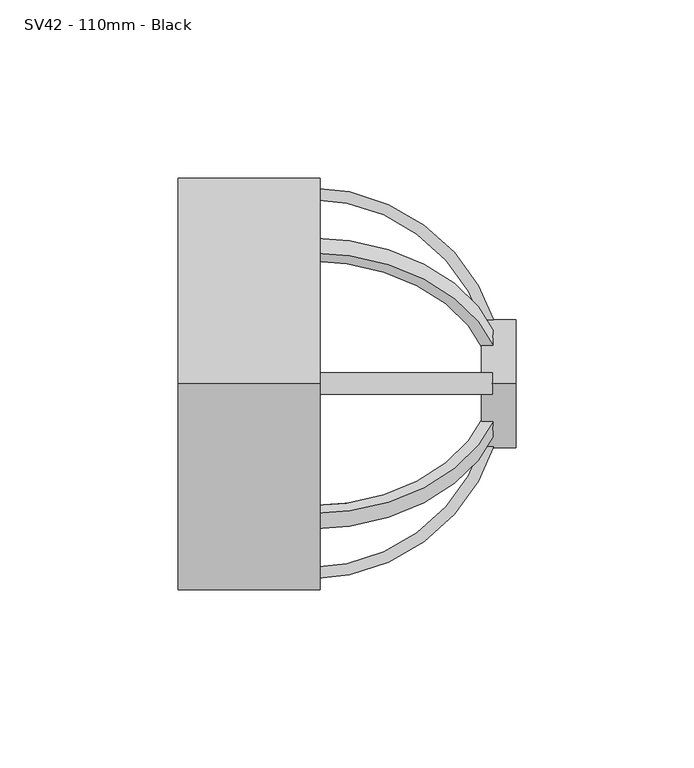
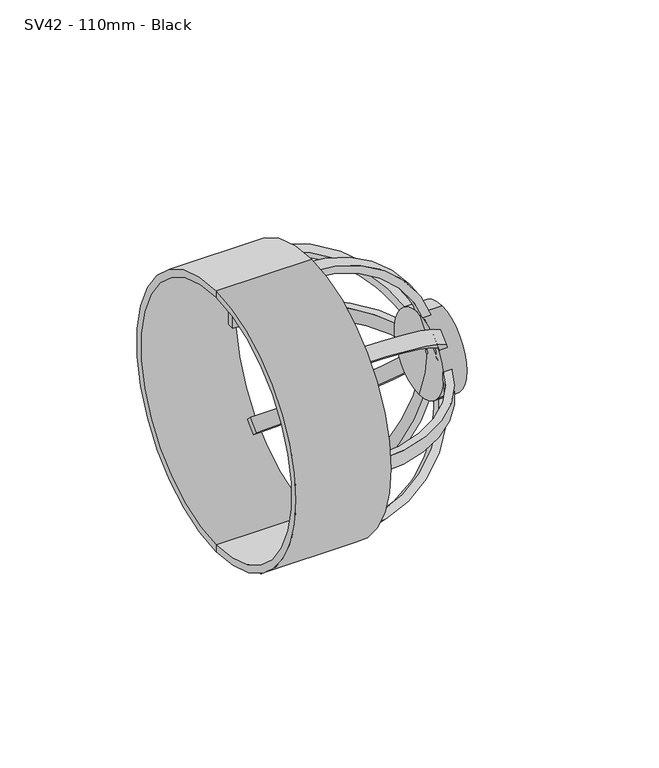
"""IFC4 building model written with IfcOpenShell, lengths in millimetres: pipe fitting geometry, MarleyPlumbingAndDrainage_PipeFitting_VentTerminal_SV321 : SV42 - 110mm - Black."""

from ifc_helpers import new_model, si_unit, point, frame, frame_2d, origin, place, context, project, spatial, polyline, circle_curve, ellipse_curve, trimmed, segment, composite_curve, outline, extrude, source, transform, mapped, element, save
from ifc_brep_helpers import plane_surface, cylinder_surface, revolved_surface, advanced_brep


def sv42_110mm_black_ff0adb0d(model_context):
    return source(origin(), model_context, "Body", "SolidModel", [
        advanced_brep(
        [(-235.6858175, 0.0, -18.0), (-235.6858175, 0.0, 18.0), (-235.6858175, 0.0, 0.0), (-245.3138091, 0.0, -18.0), (-245.3138091, 0.0, 18.0), (-242.0858175, 0.0, 0.0)],
        [
            (0, 1, circle_curve(frame((-235.6858175, 0.0, 0.0), z_axis=(1.0, 0.0, 0.0), x_axis=(0.0, 0.0, 1.0)), 18.0)),
            (1, 2),
            (2, 0),
            (1, 0, circle_curve(frame((-235.6858175, 0.0, 0.0), z_axis=(1.0, 0.0, 0.0), x_axis=(0.0, 0.0, 1.0)), 18.0)),
            (3, 4, circle_curve(frame((-245.3138091, 0.0, 0.0), z_axis=(1.0, 0.0, 0.0), x_axis=(0.0, 0.0, 1.0)), 18.0)),
            (4, 1),
            (0, 3),
            (4, 3, circle_curve(frame((-245.3138091, 0.0, 0.0), z_axis=(1.0, 0.0, 0.0), x_axis=(0.0, 0.0, 1.0)), 18.0)),
            (5, 4, circle_curve(frame((-293.8858175, 0.0, 0.0), z_axis=(0.0, -1.0, 0.0), x_axis=(0.0, 0.0, -1.0)), 51.8)),
            (3, 5, circle_curve(frame((-293.8858175, 0.0, 0.0), z_axis=(0.0, -1.0, 0.0), x_axis=(0.0, 0.0, 1.0)), 51.8)),
        ],
        [
            plane_surface(frame((-235.6858175, 0.0, 0.0), z_axis=(1.0, 0.0, 0.0), x_axis=(0.0, 0.0, 1.0))),
            cylinder_surface(frame((1883.6291855, 0.0, 0.0), z_axis=(-1.0, 0.0, 0.0), x_axis=(0.0, 0.0, 1.0)), 18.0),
            revolved_surface(trimmed(ellipse_curve(frame((-293.8858175, 0.0, 0.0), z_axis=(0.0, 1.0, 0.0), x_axis=(0.0, 0.0, -1.0)), 51.8, 51.8), [point((-245.3138091, 0.0, 18.0))], [point((-242.0858175, 0.0, 0.0))], True, "CARTESIAN"), (1883.6291855, 0.0, 0.0), (-1.0, 0.0, 0.0)),
        ],
        [
            (0, [[1, 2, 3]]),
            (0, [[4, -3, -2]]),
            (1, [[5, 6, -1, 7]]),
            (1, [[8, -7, -4, -6]]),
            (2, [[9, -5, 10]]),
            (2, [[-10, -8, -9]]),
        ],
    ),
        extrude(outline(composite_curve([segment(polyline([(-293.8858175, -55.0), (-293.8858175, -51.8)]), True, "CONTINUOUS"), segment(trimmed(circle_curve(frame_2d((-293.8858175, 0.0)), 51.8), [point((-293.8858175, -51.8))], [point((-293.8858175, 51.8))], True, "CARTESIAN"), True, "CONTINUOUS"), segment(polyline([(-293.8858175, 51.8), (-293.8858175, 55.0)]), True, "CONTINUOUS"), segment(trimmed(circle_curve(frame_2d((-293.8858175, 0.0)), 55.0), [point((-293.8858175, 55.0))], [point((-293.8858175, -55.0))], False, "CARTESIAN"), True, "CONTINUOUS")], self_intersect=False)), frame((0.0, 0.0, -3.0), z_axis=(0.0, 0.0, 1.0), x_axis=(1.0, 0.0, 0.0)), (0.0, 0.0, 1.0), 6.0),
        extrude(outline(composite_curve([segment(polyline([(-3.2, 0.0), (0.0, 0.0)]), True, "CONTINUOUS"), segment(trimmed(circle_curve(frame_2d((51.8, 0.0)), 51.8), [point((0.0, 0.0))], [point((103.6, 0.0))], True, "CARTESIAN"), True, "CONTINUOUS"), segment(polyline([(103.6, 0.0), (106.8, 0.0)]), True, "CONTINUOUS"), segment(trimmed(circle_curve(frame_2d((51.8, 0.0)), 55.0), [point((106.8, 0.0))], [point((-3.2, 0.0))], False, "CARTESIAN"), True, "CONTINUOUS")], self_intersect=False)), frame((-293.8858175, -34.4120153, -38.8336607), z_axis=(0.0, -0.7088326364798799, 0.7053767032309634), x_axis=(0.0, 0.7053767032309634, 0.7088326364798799)), (0.0, 0.0, 1.0), 6.0),
        extrude(outline(composite_curve([segment(polyline([(-3.2, 0.0), (0.0, 0.0)]), True, "CONTINUOUS"), segment(trimmed(circle_curve(frame_2d((51.8000001, 0.0)), 51.8), [point((0.0, 0.0))], [point((103.6, 0.0))], True, "CARTESIAN"), True, "CONTINUOUS"), segment(polyline([(103.6, 0.0), (106.8, 0.0)]), True, "CONTINUOUS"), segment(trimmed(circle_curve(frame_2d((51.8000001, 0.0)), 55.0), [point((106.8, 0.0))], [point((-3.2, 0.0))], False, "CARTESIAN"), True, "CONTINUOUS")], self_intersect=False)), frame((-293.8858175, -38.6686107, 34.5973778), z_axis=(0.0, 0.7087592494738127, 0.7054504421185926), x_axis=(0.0, 0.7054504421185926, -0.7087592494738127)), (0.0, 0.0, 1.0), 6.0),
        extrude(outline(composite_curve([segment(polyline([(55.0, -293.8858175), (51.8, -293.8858175)]), True, "CONTINUOUS"), segment(trimmed(circle_curve(frame_2d((0.0, -293.8858175)), 51.8), [point((51.8, -293.8858175))], [point((-51.8, -293.8858175))], True, "CARTESIAN"), True, "CONTINUOUS"), segment(polyline([(-51.8, -293.8858175), (-55.0, -293.8858175)]), True, "CONTINUOUS"), segment(trimmed(circle_curve(frame_2d((0.0, -293.8858175)), 55.0), [point((-55.0, -293.8858175))], [point((55.0, -293.8858175))], False, "CARTESIAN"), True, "CONTINUOUS")], self_intersect=False)), frame((0.0, -3.0, 0.0), z_axis=(0.0, 1.0, 0.0), x_axis=(0.0, 0.0, 1.0)), (0.0, 0.0, 1.0), 6.0),
        advanced_brep(
        [(-330.6858175, 0.0, -58.0), (-330.6858175, 0.0, 58.0), (-290.6858175, 0.0, 58.0), (-290.6858175, 0.0, -58.0), (-330.6858175, 0.0, -55.0), (-330.6858175, 0.0, 55.0), (-290.6858175, 0.0, 55.0), (-290.6858175, 0.0, -55.0)],
        [
            (0, 1, circle_curve(frame((-330.6858175, 0.0, 0.0), z_axis=(1.0, 0.0, 0.0), x_axis=(0.0, 0.0, 1.0)), 58.0)),
            (1, 2),
            (2, 3, circle_curve(frame((-290.6858175, 0.0, 0.0), z_axis=(-1.0, 0.0, 0.0), x_axis=(0.0, 0.0, 1.0)), 58.0)),
            (3, 0),
            (1, 0, circle_curve(frame((-330.6858175, 0.0, 0.0), z_axis=(1.0, 0.0, 0.0), x_axis=(0.0, 0.0, 1.0)), 58.0)),
            (3, 2, circle_curve(frame((-290.6858175, 0.0, 0.0), z_axis=(-1.0, 0.0, 0.0), x_axis=(0.0, 0.0, 1.0)), 58.0)),
            (4, 5, circle_curve(frame((-330.6858175, 0.0, 0.0), z_axis=(1.0, 0.0, 0.0), x_axis=(0.0, 0.0, 1.0)), 55.0)),
            (5, 1),
            (0, 4),
            (5, 4, circle_curve(frame((-330.6858175, 0.0, 0.0), z_axis=(1.0, 0.0, 0.0), x_axis=(0.0, 0.0, 1.0)), 55.0)),
            (2, 6),
            (6, 7, circle_curve(frame((-290.6858175, 0.0, 0.0), z_axis=(-1.0, 0.0, 0.0), x_axis=(0.0, 0.0, 1.0)), 55.0)),
            (7, 3),
            (7, 6, circle_curve(frame((-290.6858175, 0.0, 0.0), z_axis=(-1.0, 0.0, 0.0), x_axis=(0.0, 0.0, 1.0)), 55.0)),
            (6, 5),
            (4, 7),
        ],
        [
            cylinder_surface(frame((1878.0400967, 0.0, 0.0), z_axis=(-1.0, 0.0, 0.0), x_axis=(0.0, 0.0, 1.0)), 58.0),
            plane_surface(frame((-330.6858175, 0.0, 0.0), z_axis=(-1.0, 0.0, 0.0), x_axis=(0.0, 0.0, 1.0))),
            plane_surface(frame((-290.6858175, 0.0, 0.0), z_axis=(1.0, 0.0, 0.0), x_axis=(0.0, 0.0, 1.0))),
            revolved_surface(polyline([(-330.6858175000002, 0.0, 55.0), (-290.6858175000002, 0.0, 55.0)]), (1878.0400967, 0.0, 0.0), (-1.0, 0.0, 0.0)),
        ],
        [
            (0, [[1, 2, 3, 4]]),
            (0, [[5, -4, 6, -2]]),
            (1, [[7, 8, -1, 9]]),
            (1, [[10, -9, -5, -8]]),
            (2, [[-3, 11, 12, 13]]),
            (2, [[-6, -13, 14, -11]]),
            (3, [[-12, 15, -7, 16]]),
            (3, [[-14, -16, -10, -15]]),
        ],
    ),
    ])


if __name__ == "__main__":
    model = new_model("IFC4")
    model_context = context("Model", 3, world=origin())
    ifc_project = project(units=[si_unit("LENGTHUNIT", "METRE", prefix="MILLI")], contexts=[model_context])
    site = spatial("IfcSite", under=ifc_project)
    building = spatial("IfcBuilding", under=site)
    placement = place(None, origin())
    sv42_110mm_black_shape = sv42_110mm_black_ff0adb0d(model_context)
    element("IfcPipeFitting", 1, ObjectType="MarleyPlumbingAndDrainage_PipeFitting_VentTerminal_SV321 : SV42 - 110mm - Black", at=placement, inside=building, context=model_context, shape_type="MappedRepresentation", body=[
        mapped(sv42_110mm_black_shape, transform((0.0, 0.0, 0.0), x_axis=(1.0, 0.0, 0.0), y_axis=(0.0, 1.0, 0.0), z_axis=(0.0, 0.0, 1.0))),
    ])
    save(model, "model.ifc")
